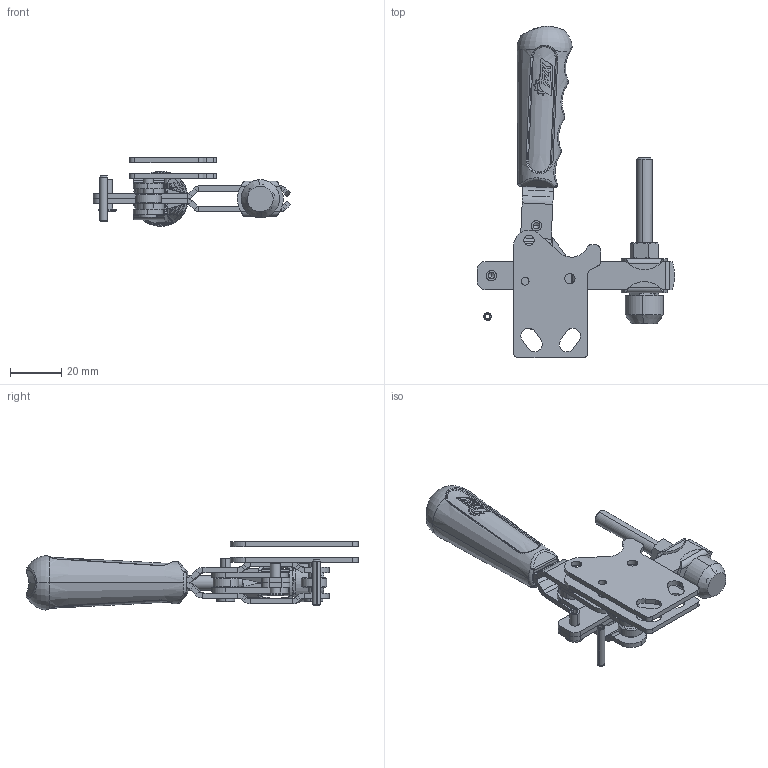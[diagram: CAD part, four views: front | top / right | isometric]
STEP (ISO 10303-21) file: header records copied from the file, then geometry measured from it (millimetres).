
FILE_DESCRIPTION (( 'STEP AP214' ), '1' );
FILE_NAME ('201_BU.STEP', '2024-09-09T16:26:41', ( '' ), ( '' ), 'SwSTEP 2.0', 'SolidWorks 2023', '' );
FILE_SCHEMA (( 'AUTOMOTIVE_DESIGN' ));
Length unit declared in the file: millimetre
Products named in the file (16): FZK_201_BLU_01_00; 201_BU; FZK_201_B_8_00; DALDIRMA SAP; FZK_201_B_01_00; FZK_201_B_7_00; spring pin slotted_hd_din_Spring Pin ISO 8752 - 3 x 18 - St; FZK_201_B_06_00; hex nut gradec_din_Hexagon Nut ISO 4034 - M6 - N; hex bolt gradeb_din_ISO 4015 - M6 x 60 x 60-N; FZK_201_B_02_00; M6 PUL DIN125; M6 PABUÇ; FZK_201_B_02A_00; FZK_201_B_05_00; FZK_201_B_04_00
Assembly tree (23 placements, depth 3):
  201_BU
    M6 PABUÇ
    FZK_201_B_01_00  x2
    FZK_201_B_02_00
      FZK_201_B_02A_00  x2
    FZK_201_B_04_00
    FZK_201_B_05_00
    FZK_201_BLU_01_00  x2
    hex nut gradec_din_Hexagon Nut ISO 4034 - M6 - N  x2
    hex bolt gradeb_din_ISO 4015 - M6 x 60 x 60-N
    spring pin slotted_hd_din_Spring Pin ISO 8752 - 3 x 18 - St
    M6 PUL DIN125  x2
    FZK_201_B_06_00  x2
    FZK_201_B_7_00  x2
    FZK_201_B_8_00  x2
    DALDIRMA SAP
Bounding box: 77.17 x 129.85 x 26.69 mm (x, y, z)
Volume: 33646.5 mm3; surface area: 30043.2 mm2
Topology: 22 solids, 22 shells, 815 faces, 1924 edges, 1159 vertices
Faces by surface type: plane 244, cylinder 239, bspline 221, cone 85, sphere 20, torus 6
Entity records: 30757 total; most frequent: CARTESIAN_POINT 18101, ORIENTED_EDGE 2846, DIRECTION 1969, EDGE_CURVE 1423, VERTEX_POINT 877, AXIS2_PLACEMENT_3D 795, EDGE_LOOP 646, B_SPLINE_CURVE_WITH_KNOTS 640
